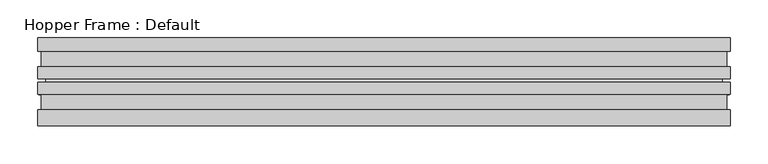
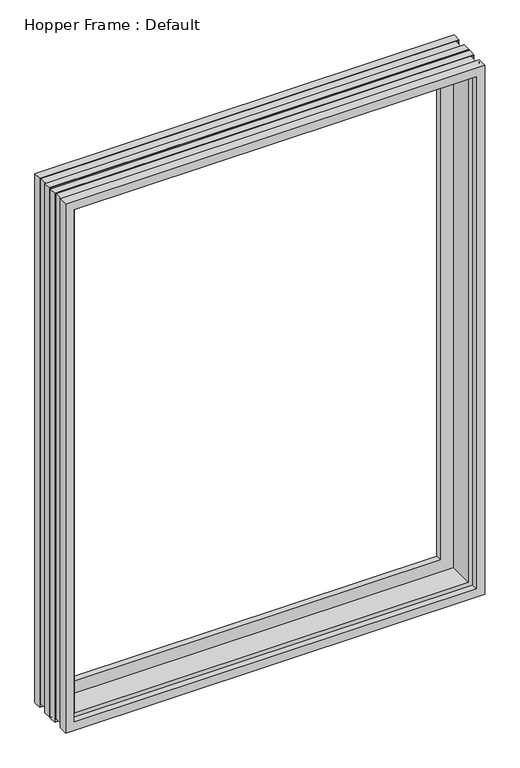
"""IFC4 building model written with IfcOpenShell, lengths in millimetres: proxy geometry, Hopper Frame : Default."""

from ifc_helpers import new_model, si_unit, frame, origin, place, context, project, spatial, polyline, ellipse_curve, source, transform, mapped, element, save
from ifc_brep_helpers import plane_surface, revolved_surface, advanced_brep


def hopper_frame_default_f40292db(model_context):
    return source(origin(), model_context, "Body", "AdvancedBrep", [
        advanced_brep(
        [(428.625, 82.55, 790.575), (428.625, 115.8875, 790.575), (-428.625, 115.8875, 790.575), (-428.625, 82.55, 790.575), (400.05, 69.85, 819.15), (400.05, 82.55, 819.15), (-400.05, 82.55, 819.15), (-400.05, 69.85, 819.15), (428.625, 14.2875, 790.575), (428.625, 69.85, 790.575), (-428.625, 69.85, 790.575), (-428.625, 14.2875, 790.575), (-428.625, 115.8875, 1952.625), (-428.625, 82.55, 1952.625), (-400.05, 82.55, 1924.05), (-400.05, 69.85, 1924.05), (-428.625, 69.85, 1952.625), (-428.625, 14.2875, 1952.625), (428.625, 115.8875, 1952.625), (428.625, 82.55, 1952.625), (400.05, 82.55, 1924.05), (400.05, 69.85, 1924.05), (428.625, 69.85, 1952.625), (428.625, 14.2875, 1952.625), (457.2, 0.0, 762.0), (457.2, 0.0, 1981.2), (-457.2, 0.0, 1981.2), (-457.2, 0.0, 762.0), (-438.15, 0.0, 781.05), (-438.15, 0.0, 1962.15), (438.15, 0.0, 1962.15), (438.15, 0.0, 781.05), (-457.2, 115.8875, 762.0), (-457.2, 115.8875, 1981.2), (457.2, 115.8875, 1981.2), (457.2, 115.8875, 762.0), (438.15, 14.2875, 781.05), (-438.15, 14.2875, 781.05), (-438.15, 14.2875, 1962.15), (438.15, 14.2875, 1962.15), (457.2, 20.6375, 762.0), (-457.2, 20.6375, 762.0), (454.421875, 17.4625, 764.778125), (456.009375, 20.6375, 763.190625), (-456.009375, 20.6375, 763.190625), (-454.421875, 17.4625, 764.778125), (452.4375, 44.45, 766.7625), (452.4375, 17.4625, 766.7625), (-452.4375, 17.4625, 766.7625), (-452.4375, 44.45, 766.7625), (456.009375, 41.275, 763.190625), (454.421875, 44.45, 764.778125), (-454.421875, 44.45, 764.778125), (-456.009375, 41.275, 763.190625), (457.2, 57.15, 762.0), (457.2, 41.275, 762.0), (-457.2, 41.275, 762.0), (-457.2, 57.15, 762.0), (455.6125, 61.9125, 763.5875), (455.6125, 57.15, 763.5875), (-455.6125, 57.15, 763.5875), (-455.6125, 61.9125, 763.5875), (457.2, 77.7875, 762.0), (457.2, 61.9125, 762.0), (-457.2, 61.9125, 762.0), (-457.2, 77.7875, 762.0), (454.421875, 74.6125, 764.778125), (456.009375, 77.7875, 763.190625), (-456.009375, 77.7875, 763.190625), (-454.421875, 74.6125, 764.778125), (452.4375, 101.6, 766.7625), (452.4375, 74.6125, 766.7625), (-452.4375, 74.6125, 766.7625), (-452.4375, 101.6, 766.7625), (456.009375, 98.425, 763.190625), (454.421875, 101.6, 764.778125), (-454.421875, 101.6, 764.778125), (-456.009375, 98.425, 763.190625), (457.2, 98.425, 762.0), (-457.2, 98.425, 762.0), (-457.2, 20.6375, 1981.2), (-456.009375, 20.6375, 1980.009375), (-454.421875, 17.4625, 1978.421875), (-452.4375, 17.4625, 1976.4375), (-452.4375, 44.45, 1976.4375), (-454.421875, 44.45, 1978.421875), (-456.009375, 41.275, 1980.009375), (-457.2, 41.275, 1981.2), (-457.2, 57.15, 1981.2), (-455.6125, 57.15, 1979.6125), (-455.6125, 61.9125, 1979.6125), (-457.2, 61.9125, 1981.2), (-457.2, 77.7875, 1981.2), (-456.009375, 77.7875, 1980.009375), (-454.421875, 74.6125, 1978.421875), (-452.4375, 74.6125, 1976.4375), (-452.4375, 101.6, 1976.4375), (-454.421875, 101.6, 1978.421875), (-456.009375, 98.425, 1980.009375), (-457.2, 98.425, 1981.2), (457.2, 20.6375, 1981.2), (456.009375, 20.6375, 1980.009375), (454.421875, 17.4625, 1978.421875), (452.4375, 17.4625, 1976.4375), (452.4375, 44.45, 1976.4375), (454.421875, 44.45, 1978.421875), (456.009375, 41.275, 1980.009375), (457.2, 41.275, 1981.2), (457.2, 57.15, 1981.2), (455.6125, 57.15, 1979.6125), (455.6125, 61.9125, 1979.6125), (457.2, 61.9125, 1981.2), (457.2, 77.7875, 1981.2), (456.009375, 77.7875, 1980.009375), (454.421875, 74.6125, 1978.421875), (452.4375, 74.6125, 1976.4375), (452.4375, 101.6, 1976.4375), (454.421875, 101.6, 1978.421875), (456.009375, 98.425, 1980.009375), (457.2, 98.425, 1981.2)],
        [
            (0, 1),
            (1, 2),
            (2, 3),
            (3, 0),
            (4, 5),
            (5, 6),
            (6, 7),
            (7, 4),
            (8, 9),
            (9, 10),
            (10, 11),
            (11, 8),
            (2, 12),
            (12, 13),
            (13, 3),
            (6, 14),
            (14, 15),
            (15, 7),
            (10, 16),
            (16, 17),
            (17, 11),
            (12, 18),
            (18, 19),
            (19, 13),
            (14, 20),
            (20, 21),
            (21, 15),
            (16, 22),
            (22, 23),
            (23, 17),
            (18, 1),
            (0, 19),
            (5, 20),
            (4, 21),
            (9, 22),
            (8, 23),
            (24, 25),
            (25, 26),
            (26, 27),
            (27, 24),
            (28, 29),
            (29, 30),
            (30, 31),
            (31, 28),
            (32, 33),
            (33, 34),
            (34, 35),
            (35, 32),
            (31, 36),
            (36, 37),
            (37, 28),
            (37, 38),
            (38, 29),
            (38, 39),
            (39, 30),
            (36, 39),
            (40, 24),
            (27, 41),
            (41, 40),
            (42, 43),
            (43, 44),
            (44, 45),
            (45, 42),
            (46, 47),
            (47, 48),
            (48, 49),
            (49, 46),
            (50, 51),
            (51, 52),
            (52, 53),
            (53, 50),
            (54, 55),
            (55, 56),
            (56, 57),
            (57, 54),
            (58, 59, ellipse_curve(frame((451.488054, 59.53125, 767.711946), z_axis=(0.7071067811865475, 0.0, 0.7071067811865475), x_axis=(-0.7071067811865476, 0.0, 0.7071067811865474)), 6.7351921, 4.7625)),
            (59, 60),
            (60, 61, ellipse_curve(frame((-451.488054, 59.53125, 767.711946), z_axis=(-0.7071067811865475, 0.0, 0.7071067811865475), x_axis=(-0.7071067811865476, 0.0, -0.7071067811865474)), 6.7351921, 4.7625)),
            (61, 58),
            (62, 63),
            (63, 64),
            (64, 65),
            (65, 62),
            (66, 67),
            (67, 68),
            (68, 69),
            (69, 66),
            (70, 71),
            (71, 72),
            (72, 73),
            (73, 70),
            (74, 75),
            (75, 76),
            (76, 77),
            (77, 74),
            (35, 78),
            (78, 79),
            (79, 32),
            (26, 80),
            (80, 41),
            (44, 81),
            (81, 82),
            (82, 45),
            (48, 83),
            (83, 84),
            (84, 49),
            (52, 85),
            (85, 86),
            (86, 53),
            (56, 87),
            (87, 88),
            (88, 57),
            (60, 89),
            (89, 90, ellipse_curve(frame((-451.488054, 59.53125, 1975.488054), z_axis=(0.7071067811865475, 0.0, 0.7071067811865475), x_axis=(-0.7071067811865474, 0.0, 0.7071067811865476)), 6.7351921, 4.7625)),
            (90, 61),
            (64, 91),
            (91, 92),
            (92, 65),
            (68, 93),
            (93, 94),
            (94, 69),
            (72, 95),
            (95, 96),
            (96, 73),
            (76, 97),
            (97, 98),
            (98, 77),
            (79, 99),
            (99, 33),
            (25, 100),
            (100, 80),
            (81, 101),
            (101, 102),
            (102, 82),
            (83, 103),
            (103, 104),
            (104, 84),
            (85, 105),
            (105, 106),
            (106, 86),
            (87, 107),
            (107, 108),
            (108, 88),
            (89, 109),
            (109, 110, ellipse_curve(frame((451.488054, 59.53125, 1975.488054), z_axis=(0.7071067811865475, 0.0, -0.7071067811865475), x_axis=(0.7071067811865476, 0.0, 0.7071067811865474)), 6.7351921, 4.7625)),
            (110, 90),
            (91, 111),
            (111, 112),
            (112, 92),
            (93, 113),
            (113, 114),
            (114, 94),
            (95, 115),
            (115, 116),
            (116, 96),
            (97, 117),
            (117, 118),
            (118, 98),
            (99, 119),
            (119, 34),
            (40, 100),
            (43, 101),
            (42, 102),
            (47, 103),
            (46, 104),
            (51, 105),
            (50, 106),
            (55, 107),
            (54, 108),
            (59, 109),
            (58, 110),
            (63, 111),
            (62, 112),
            (67, 113),
            (66, 114),
            (71, 115),
            (70, 116),
            (75, 117),
            (74, 118),
            (78, 119),
        ],
        [
            plane_surface(frame((428.625, 115.8875, 790.575), z_axis=(0.0, 0.0, 1.0), x_axis=(-1.0, 0.0, 0.0))),
            plane_surface(frame((400.05, 82.55, 819.15), z_axis=(0.0, 0.0, 1.0), x_axis=(-1.0, 0.0, 0.0))),
            plane_surface(frame((428.625, 69.85, 790.575), z_axis=(0.0, 0.0, 1.0), x_axis=(-1.0, 0.0, 0.0))),
            plane_surface(frame((-428.625, 115.8875, 790.575), z_axis=(1.0, 0.0, 0.0), x_axis=(0.0, 0.0, 1.0))),
            plane_surface(frame((-400.05, 82.55, 819.15), z_axis=(1.0, 0.0, 0.0), x_axis=(0.0, 0.0, 1.0))),
            plane_surface(frame((-428.625, 69.85, 790.575), z_axis=(1.0, 0.0, 0.0), x_axis=(0.0, 0.0, 1.0))),
            plane_surface(frame((-428.625, 115.8875, 1952.625), z_axis=(0.0, 0.0, -1.0), x_axis=(1.0, 0.0, 0.0))),
            plane_surface(frame((-400.05, 82.55, 1924.05), z_axis=(0.0, 0.0, -1.0), x_axis=(1.0, 0.0, 0.0))),
            plane_surface(frame((-428.625, 69.85, 1952.625), z_axis=(0.0, 0.0, -1.0), x_axis=(1.0, 0.0, 0.0))),
            plane_surface(frame((428.625, 115.8875, 1952.625), z_axis=(-1.0, 0.0, 0.0), x_axis=(0.0, 0.0, -1.0))),
            plane_surface(frame((428.625, 82.55, 1952.625), z_axis=(0.0, 1.0, 0.0), x_axis=(0.0, 0.0, -1.0))),
            plane_surface(frame((400.05, 82.55, 1924.05), z_axis=(-1.0, 0.0, 0.0), x_axis=(0.0, 0.0, -1.0))),
            plane_surface(frame((400.05, 69.85, 1924.05), z_axis=(0.0, -1.0, 0.0), x_axis=(0.0, 0.0, -1.0))),
            plane_surface(frame((428.625, 69.85, 1952.625), z_axis=(-1.0, 0.0, 0.0), x_axis=(0.0, 0.0, -1.0))),
            plane_surface(frame((438.15, 0.0, 1962.15), z_axis=(0.0, -1.0, 0.0), x_axis=(0.0, 0.0, -1.0))),
            plane_surface(frame((457.2, 115.8875, 1981.2), z_axis=(0.0, 1.0, 0.0), x_axis=(0.0, 0.0, -1.0))),
            plane_surface(frame((438.15, 14.2875, 781.05), z_axis=(0.0, 0.0, 1.0), x_axis=(-1.0, 0.0, 0.0))),
            plane_surface(frame((-438.15, 14.2875, 781.05), z_axis=(1.0, 0.0, 0.0), x_axis=(0.0, 0.0, 1.0))),
            plane_surface(frame((-438.15, 14.2875, 1962.15), z_axis=(0.0, 0.0, -1.0), x_axis=(1.0, 0.0, 0.0))),
            plane_surface(frame((428.625, 14.2875, 1952.625), z_axis=(0.0, -1.0, 0.0), x_axis=(0.0, 0.0, -1.0))),
            plane_surface(frame((438.15, 14.2875, 1962.15), z_axis=(-1.0, 0.0, 0.0), x_axis=(0.0, 0.0, -1.0))),
            plane_surface(frame((457.2, 0.0, 762.0), z_axis=(0.0, 0.0, -1.0), x_axis=(-1.0, 0.0, 0.0))),
            plane_surface(frame((456.009375, 20.6375, 763.190625), z_axis=(0.0, 0.4472135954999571, 0.8944271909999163), x_axis=(-1.0, 0.0, 0.0))),
            plane_surface(frame((452.4375, 17.4625, 766.7625), z_axis=(0.0, 0.0, -1.0), x_axis=(-1.0, 0.0, 0.0))),
            plane_surface(frame((454.421875, 44.45, 764.778125), z_axis=(0.0, -0.44721359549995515, 0.8944271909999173), x_axis=(-1.0, 0.0, 0.0))),
            plane_surface(frame((457.2, 41.275, 762.0), z_axis=(0.0, 0.0, -1.0), x_axis=(-1.0, 0.0, 0.0))),
            revolved_surface(polyline([(-456.25055400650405, 54.76875, 767.711946), (456.25055400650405, 54.76875, 767.711946)]), (457.2, 59.53125, 767.711946), (-1.0, 0.0, 0.0)),
            plane_surface(frame((457.2, 61.9125, 762.0), z_axis=(0.0, 0.0, -1.0), x_axis=(-1.0, 0.0, 0.0))),
            plane_surface(frame((456.009375, 77.7875, 763.190625), z_axis=(0.0, 0.4472135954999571, 0.8944271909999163), x_axis=(-1.0, 0.0, 0.0))),
            plane_surface(frame((452.4375, 74.6125, 766.7625), z_axis=(0.0, 0.0, -1.0), x_axis=(-1.0, 0.0, 0.0))),
            plane_surface(frame((454.421875, 101.6, 764.778125), z_axis=(0.0, -0.44721359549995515, 0.8944271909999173), x_axis=(-1.0, 0.0, 0.0))),
            plane_surface(frame((457.2, 98.425, 762.0), z_axis=(0.0, 0.0, -1.0), x_axis=(-1.0, 0.0, 0.0))),
            plane_surface(frame((-457.2, 0.0, 762.0), z_axis=(-1.0, 0.0, 0.0), x_axis=(0.0, 0.0, 1.0))),
            plane_surface(frame((-456.009375, 20.6375, 763.190625), z_axis=(0.8944271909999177, 0.4472135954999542, 0.0), x_axis=(0.0, 0.0, 1.0))),
            plane_surface(frame((-452.4375, 17.4625, 766.7625), z_axis=(-1.0, 0.0, 0.0), x_axis=(0.0, 0.0, 1.0))),
            plane_surface(frame((-454.421875, 44.45, 764.778125), z_axis=(0.8944271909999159, -0.44721359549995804, 0.0), x_axis=(0.0, 0.0, 1.0))),
            plane_surface(frame((-457.2, 41.275, 762.0), z_axis=(-1.0, 0.0, 0.0), x_axis=(0.0, 0.0, 1.0))),
            revolved_surface(polyline([(-451.488054, 54.76875, 1980.250554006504), (-451.488054, 54.76875, 762.9494459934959)]), (-451.488054, 59.53125, 762.0), (0.0, 0.0, 1.0)),
            plane_surface(frame((-457.2, 61.9125, 762.0), z_axis=(-1.0, 0.0, 0.0), x_axis=(0.0, 0.0, 1.0))),
            plane_surface(frame((-456.009375, 77.7875, 763.190625), z_axis=(0.8944271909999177, 0.4472135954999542, 0.0), x_axis=(0.0, 0.0, 1.0))),
            plane_surface(frame((-452.4375, 74.6125, 766.7625), z_axis=(-1.0, 0.0, 0.0), x_axis=(0.0, 0.0, 1.0))),
            plane_surface(frame((-454.421875, 101.6, 764.778125), z_axis=(0.8944271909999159, -0.44721359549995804, 0.0), x_axis=(0.0, 0.0, 1.0))),
            plane_surface(frame((-457.2, 98.425, 762.0), z_axis=(-1.0, 0.0, 0.0), x_axis=(0.0, 0.0, 1.0))),
            plane_surface(frame((-457.2, 0.0, 1981.2), z_axis=(0.0, 0.0, 1.0), x_axis=(1.0, 0.0, 0.0))),
            plane_surface(frame((-456.009375, 20.6375, 1980.009375), z_axis=(0.0, 0.4472135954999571, -0.8944271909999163), x_axis=(1.0, 0.0, 0.0))),
            plane_surface(frame((-452.4375, 17.4625, 1976.4375), z_axis=(0.0, 0.0, 1.0), x_axis=(1.0, 0.0, 0.0))),
            plane_surface(frame((-454.421875, 44.45, 1978.421875), z_axis=(0.0, -0.44721359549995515, -0.8944271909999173), x_axis=(1.0, 0.0, 0.0))),
            plane_surface(frame((-457.2, 41.275, 1981.2), z_axis=(0.0, 0.0, 1.0), x_axis=(1.0, 0.0, 0.0))),
            revolved_surface(polyline([(456.25055400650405, 54.76875, 1975.488054), (-456.25055400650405, 54.76875, 1975.488054)]), (-457.2, 59.53125, 1975.488054), (1.0, 0.0, 0.0)),
            plane_surface(frame((-457.2, 61.9125, 1981.2), z_axis=(0.0, 0.0, 1.0), x_axis=(1.0, 0.0, 0.0))),
            plane_surface(frame((-456.009375, 77.7875, 1980.009375), z_axis=(0.0, 0.4472135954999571, -0.8944271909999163), x_axis=(1.0, 0.0, 0.0))),
            plane_surface(frame((-452.4375, 74.6125, 1976.4375), z_axis=(0.0, 0.0, 1.0), x_axis=(1.0, 0.0, 0.0))),
            plane_surface(frame((-454.421875, 101.6, 1978.421875), z_axis=(0.0, -0.44721359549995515, -0.8944271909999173), x_axis=(1.0, 0.0, 0.0))),
            plane_surface(frame((-457.2, 98.425, 1981.2), z_axis=(0.0, 0.0, 1.0), x_axis=(1.0, 0.0, 0.0))),
            plane_surface(frame((457.2, 0.0, 1981.2), z_axis=(1.0, 0.0, 0.0), x_axis=(0.0, 0.0, -1.0))),
            plane_surface(frame((457.2, 20.6375, 1981.2), z_axis=(0.0, 1.0, 0.0), x_axis=(0.0, 0.0, -1.0))),
            plane_surface(frame((456.009375, 20.6375, 1980.009375), z_axis=(-0.8944271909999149, 0.44721359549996, 0.0), x_axis=(0.0, 0.0, -1.0))),
            plane_surface(frame((454.421875, 17.4625, 1978.421875), z_axis=(0.0, 1.0, 0.0), x_axis=(0.0, 0.0, -1.0))),
            plane_surface(frame((452.4375, 17.4625, 1976.4375), z_axis=(1.0, 0.0, 0.0), x_axis=(0.0, 0.0, -1.0))),
            plane_surface(frame((452.4375, 44.45, 1976.4375), z_axis=(0.0, -1.0, 0.0), x_axis=(0.0, 0.0, -1.0))),
            plane_surface(frame((454.421875, 44.45, 1978.421875), z_axis=(-0.8944271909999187, -0.44721359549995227, 0.0), x_axis=(0.0, 0.0, -1.0))),
            plane_surface(frame((456.009375, 41.275, 1980.009375), z_axis=(0.0, -1.0, 0.0), x_axis=(0.0, 0.0, -1.0))),
            plane_surface(frame((457.2, 41.275, 1981.2), z_axis=(1.0, 0.0, 0.0), x_axis=(0.0, 0.0, -1.0))),
            plane_surface(frame((457.2, 57.15, 1981.2), z_axis=(0.0, 1.0, 0.0), x_axis=(0.0, 0.0, -1.0))),
            revolved_surface(polyline([(451.488054, 54.76875, 762.949445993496), (451.488054, 54.76875, 1980.250554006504)]), (451.488054, 59.53125, 1981.2), (0.0, 0.0, -1.0)),
            plane_surface(frame((455.6125, 61.9125, 1979.6125), z_axis=(0.0, -1.0, 0.0), x_axis=(0.0, 0.0, -1.0))),
            plane_surface(frame((457.2, 61.9125, 1981.2), z_axis=(1.0, 0.0, 0.0), x_axis=(0.0, 0.0, -1.0))),
            plane_surface(frame((457.2, 77.7875, 1981.2), z_axis=(0.0, 1.0, 0.0), x_axis=(0.0, 0.0, -1.0))),
            plane_surface(frame((456.009375, 77.7875, 1980.009375), z_axis=(-0.8944271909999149, 0.44721359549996, 0.0), x_axis=(0.0, 0.0, -1.0))),
            plane_surface(frame((454.421875, 74.6125, 1978.421875), z_axis=(0.0, 1.0, 0.0), x_axis=(0.0, 0.0, -1.0))),
            plane_surface(frame((452.4375, 74.6125, 1976.4375), z_axis=(1.0, 0.0, 0.0), x_axis=(0.0, 0.0, -1.0))),
            plane_surface(frame((452.4375, 101.6, 1976.4375), z_axis=(0.0, -1.0, 0.0), x_axis=(0.0, 0.0, -1.0))),
            plane_surface(frame((454.421875, 101.6, 1978.421875), z_axis=(-0.8944271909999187, -0.44721359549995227, 0.0), x_axis=(0.0, 0.0, -1.0))),
            plane_surface(frame((456.009375, 98.425, 1980.009375), z_axis=(0.0, -1.0, 0.0), x_axis=(0.0, 0.0, -1.0))),
            plane_surface(frame((457.2, 98.425, 1981.2), z_axis=(1.0, 0.0, 0.0), x_axis=(0.0, 0.0, -1.0))),
        ],
        [
            (0, [[1, 2, 3, 4]]),
            (1, [[5, 6, 7, 8]]),
            (2, [[9, 10, 11, 12]]),
            (3, [[-3, 13, 14, 15]]),
            (4, [[-7, 16, 17, 18]]),
            (5, [[-11, 19, 20, 21]]),
            (6, [[-14, 22, 23, 24]]),
            (7, [[-17, 25, 26, 27]]),
            (8, [[-20, 28, 29, 30]]),
            (9, [[-23, 31, -1, 32]]),
            (10, [[-15, -24, -32, -4], [33, -25, -16, -6]]),
            (11, [[-26, -33, -5, 34]]),
            (12, [[35, -28, -19, -10], [-18, -27, -34, -8]]),
            (13, [[-29, -35, -9, 36]]),
            (14, [[37, 38, 39, 40], [41, 42, 43, 44]]),
            (15, [[45, 46, 47, 48], [-31, -22, -13, -2]]),
            (16, [[49, 50, 51, -44]]),
            (17, [[-51, 52, 53, -41]]),
            (18, [[-53, 54, 55, -42]]),
            (19, [[56, -54, -52, -50], [-21, -30, -36, -12]]),
            (20, [[-55, -56, -49, -43]]),
            (21, [[57, -40, 58, 59]]),
            (22, [[60, 61, 62, 63]]),
            (23, [[64, 65, 66, 67]]),
            (24, [[68, 69, 70, 71]]),
            (25, [[72, 73, 74, 75]]),
            (26, [[76, 77, 78, 79]]),
            (27, [[80, 81, 82, 83]]),
            (28, [[84, 85, 86, 87]]),
            (29, [[88, 89, 90, 91]]),
            (30, [[92, 93, 94, 95]]),
            (31, [[96, 97, 98, -48]]),
            (32, [[-58, -39, 99, 100]]),
            (33, [[-62, 101, 102, 103]]),
            (34, [[-66, 104, 105, 106]]),
            (35, [[-70, 107, 108, 109]]),
            (36, [[-74, 110, 111, 112]]),
            (37, [[-78, 113, 114, 115]]),
            (38, [[-82, 116, 117, 118]]),
            (39, [[-86, 119, 120, 121]]),
            (40, [[-90, 122, 123, 124]]),
            (41, [[-94, 125, 126, 127]]),
            (42, [[-98, 128, 129, -45]]),
            (43, [[-99, -38, 130, 131]]),
            (44, [[-102, 132, 133, 134]]),
            (45, [[-105, 135, 136, 137]]),
            (46, [[-108, 138, 139, 140]]),
            (47, [[-111, 141, 142, 143]]),
            (48, [[-114, 144, 145, 146]]),
            (49, [[-117, 147, 148, 149]]),
            (50, [[-120, 150, 151, 152]]),
            (51, [[-123, 153, 154, 155]]),
            (52, [[-126, 156, 157, 158]]),
            (53, [[-129, 159, 160, -46]]),
            (54, [[-130, -37, -57, 161]]),
            (55, [[-100, -131, -161, -59], [162, -132, -101, -61]]),
            (56, [[-133, -162, -60, 163]]),
            (57, [[-103, -134, -163, -63], [164, -135, -104, -65]]),
            (58, [[-136, -164, -64, 165]]),
            (59, [[166, -138, -107, -69], [-106, -137, -165, -67]]),
            (60, [[-139, -166, -68, 167]]),
            (61, [[168, -141, -110, -73], [-109, -140, -167, -71]]),
            (62, [[-142, -168, -72, 169]]),
            (63, [[-112, -143, -169, -75], [170, -144, -113, -77]]),
            (64, [[-145, -170, -76, 171]]),
            (65, [[172, -147, -116, -81], [-115, -146, -171, -79]]),
            (66, [[-148, -172, -80, 173]]),
            (67, [[-118, -149, -173, -83], [174, -150, -119, -85]]),
            (68, [[-151, -174, -84, 175]]),
            (69, [[-121, -152, -175, -87], [176, -153, -122, -89]]),
            (70, [[-154, -176, -88, 177]]),
            (71, [[178, -156, -125, -93], [-124, -155, -177, -91]]),
            (72, [[-157, -178, -92, 179]]),
            (73, [[180, -159, -128, -97], [-127, -158, -179, -95]]),
            (74, [[-160, -180, -96, -47]]),
        ],
    ),
    ])


if __name__ == "__main__":
    model = new_model("IFC4")
    model_context = context("Model", 3, world=origin())
    ifc_project = project(units=[si_unit("LENGTHUNIT", "METRE", prefix="MILLI")], contexts=[model_context])
    site = spatial("IfcSite", under=ifc_project)
    building = spatial("IfcBuilding", under=site)
    placement = place(None, origin())
    hopper_frame_default_shape = hopper_frame_default_f40292db(model_context)
    element("IfcBuildingElementProxy", 1, Name="Hopper Frame : Default", ObjectType="Hopper Frame : Default", at=placement, inside=building, context=model_context, shape_type="MappedRepresentation", body=[
        mapped(hopper_frame_default_shape, transform((0.0, 0.0, 0.0), x_axis=(1.0, 0.0, 0.0), y_axis=(0.0, 1.0, 0.0), z_axis=(0.0, 0.0, 1.0))),
    ])
    save(model, "model.ifc")
